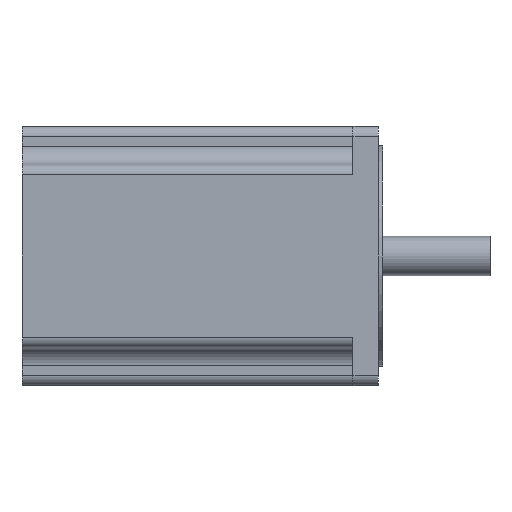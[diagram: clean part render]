
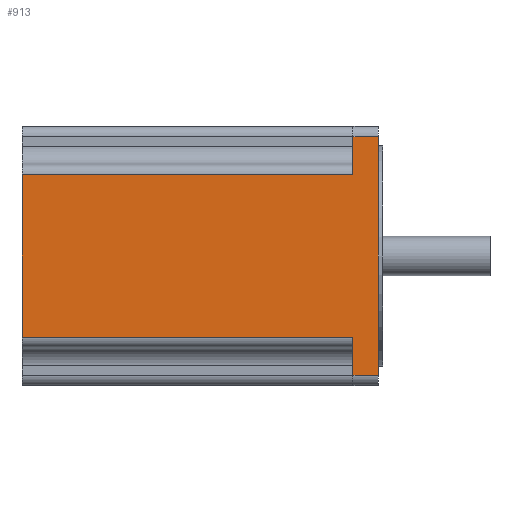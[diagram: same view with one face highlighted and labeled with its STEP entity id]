
A CAD part, front view. The second image highlights one B-rep face of the part: STEP entity #913.
In plain terms, the highlighted planar face has unit normal (0, -1, 0).
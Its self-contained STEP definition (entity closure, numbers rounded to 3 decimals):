
#592 = VERTEX_POINT ( 'NONE', #1576 ) ;
#594 = EDGE_CURVE ( 'NONE', #592, #595, #1575, .T. ) ;
#595 = VERTEX_POINT ( 'NONE', #1571 ) ;
#636 = VERTEX_POINT ( 'NONE', #1690 ) ;
#638 = EDGE_CURVE ( 'NONE', #636, #639, #1689, .T. ) ;
#639 = VERTEX_POINT ( 'NONE', #1685 ) ;
#668 = VERTEX_POINT ( 'NONE', #1697 ) ;
#670 = EDGE_CURVE ( 'NONE', #671, #668, #1759, .T. ) ;
#671 = VERTEX_POINT ( 'NONE', #1755 ) ;
#837 = ORIENTED_EDGE ( 'NONE', *, *, #838, .F. ) ;
#838 = EDGE_CURVE ( 'NONE', #851, #917, #1984, .T. ) ;
#839 = ORIENTED_EDGE ( 'NONE', *, *, #850, .T. ) ;
#840 = ORIENTED_EDGE ( 'NONE', *, *, #594, .F. ) ;
#841 = ORIENTED_EDGE ( 'NONE', *, *, #842, .T. ) ;
#842 = EDGE_CURVE ( 'NONE', #592, #639, #2043, .T. ) ;
#850 = EDGE_CURVE ( 'NONE', #851, #595, #2033, .T. ) ;
#851 = VERTEX_POINT ( 'NONE', #2029 ) ;
#855 = EDGE_LOOP ( 'NONE', ( #914, #915, #837, #839, #840, #841, #899, #900 ) ) ;
#899 = ORIENTED_EDGE ( 'NONE', *, *, #638, .F. ) ;
#900 = ORIENTED_EDGE ( 'NONE', *, *, #901, .T. ) ;
#901 = EDGE_CURVE ( 'NONE', #636, #671, #2084, .T. ) ;
#913 = ADVANCED_FACE ( 'NONE', ( #2120 ), #2124, .F. ) ;
#914 = ORIENTED_EDGE ( 'NONE', *, *, #670, .T. ) ;
#915 = ORIENTED_EDGE ( 'NONE', *, *, #916, .T. ) ;
#916 = EDGE_CURVE ( 'NONE', #668, #917, #2118, .T. ) ;
#917 = VERTEX_POINT ( 'NONE', #2111 ) ;
#1571 = CARTESIAN_POINT ( 'NONE',  ( 47.091, -39.065, -39.425 ) ) ;
#1572 = DIRECTION ( 'NONE',  ( 0., 0., -1. ) ) ;
#1573 = VECTOR ( 'NONE', #1572, 1000. ) ;
#1574 = CARTESIAN_POINT ( 'NONE',  ( 47.091, -39.065, 42.925 ) ) ;
#1575 = LINE ( 'NONE', #1574, #1573 ) ;
#1576 = CARTESIAN_POINT ( 'NONE',  ( 47.091, -39.065, 39.425 ) ) ;
#1685 = CARTESIAN_POINT ( 'NONE',  ( 38.711, -39.065, 39.425 ) ) ;
#1686 = DIRECTION ( 'NONE',  ( 0., 0., 1. ) ) ;
#1687 = VECTOR ( 'NONE', #1686, 1000. ) ;
#1688 = CARTESIAN_POINT ( 'NONE',  ( 38.711, -39.065, 42.925 ) ) ;
#1689 = LINE ( 'NONE', #1688, #1687 ) ;
#1690 = CARTESIAN_POINT ( 'NONE',  ( 38.711, -39.065, 26.925 ) ) ;
#1697 = CARTESIAN_POINT ( 'NONE',  ( -70.909, -39.065, -26.925 ) ) ;
#1755 = CARTESIAN_POINT ( 'NONE',  ( -70.909, -39.065, 26.925 ) ) ;
#1756 = DIRECTION ( 'NONE',  ( 0., 0., -1. ) ) ;
#1757 = VECTOR ( 'NONE', #1756, 1000. ) ;
#1758 = CARTESIAN_POINT ( 'NONE',  ( -70.909, -39.065, 42.925 ) ) ;
#1759 = LINE ( 'NONE', #1758, #1757 ) ;
#1981 = DIRECTION ( 'NONE',  ( 0., 0., 1. ) ) ;
#1982 = VECTOR ( 'NONE', #1981, 1000. ) ;
#1983 = CARTESIAN_POINT ( 'NONE',  ( 38.711, -39.065, -42.925 ) ) ;
#1984 = LINE ( 'NONE', #1983, #1982 ) ;
#2029 = CARTESIAN_POINT ( 'NONE',  ( 38.711, -39.065, -39.425 ) ) ;
#2030 = DIRECTION ( 'NONE',  ( 1., 0., 0. ) ) ;
#2031 = VECTOR ( 'NONE', #2030, 1000. ) ;
#2032 = CARTESIAN_POINT ( 'NONE',  ( 47.091, -39.065, -39.425 ) ) ;
#2033 = LINE ( 'NONE', #2032, #2031 ) ;
#2040 = DIRECTION ( 'NONE',  ( -1., 0., 0. ) ) ;
#2041 = VECTOR ( 'NONE', #2040, 1000. ) ;
#2042 = CARTESIAN_POINT ( 'NONE',  ( 47.091, -39.065, 39.425 ) ) ;
#2043 = LINE ( 'NONE', #2042, #2041 ) ;
#2081 = DIRECTION ( 'NONE',  ( -1., 0., 0. ) ) ;
#2082 = VECTOR ( 'NONE', #2081, 1000. ) ;
#2083 = CARTESIAN_POINT ( 'NONE',  ( 47.091, -39.065, 26.925 ) ) ;
#2084 = LINE ( 'NONE', #2083, #2082 ) ;
#2111 = CARTESIAN_POINT ( 'NONE',  ( 38.711, -39.065, -26.925 ) ) ;
#2112 = DIRECTION ( 'NONE',  ( 1., 0., 0. ) ) ;
#2113 = VECTOR ( 'NONE', #2112, 1000. ) ;
#2114 = CARTESIAN_POINT ( 'NONE',  ( 47.091, -39.065, -26.925 ) ) ;
#2115 = DIRECTION ( 'NONE',  ( 0., 0., 1. ) ) ;
#2116 = DIRECTION ( 'NONE',  ( 0., 1., 0. ) ) ;
#2117 = CARTESIAN_POINT ( 'NONE',  ( 47.091, -39.065, 42.925 ) ) ;
#2118 = LINE ( 'NONE', #2114, #2113 ) ;
#2119 = AXIS2_PLACEMENT_3D ( 'NONE', #2117, #2116, #2115 ) ;
#2120 = FACE_OUTER_BOUND ( 'NONE', #855, .T. ) ;
#2124 = PLANE ( 'NONE',  #2119 ) ;
